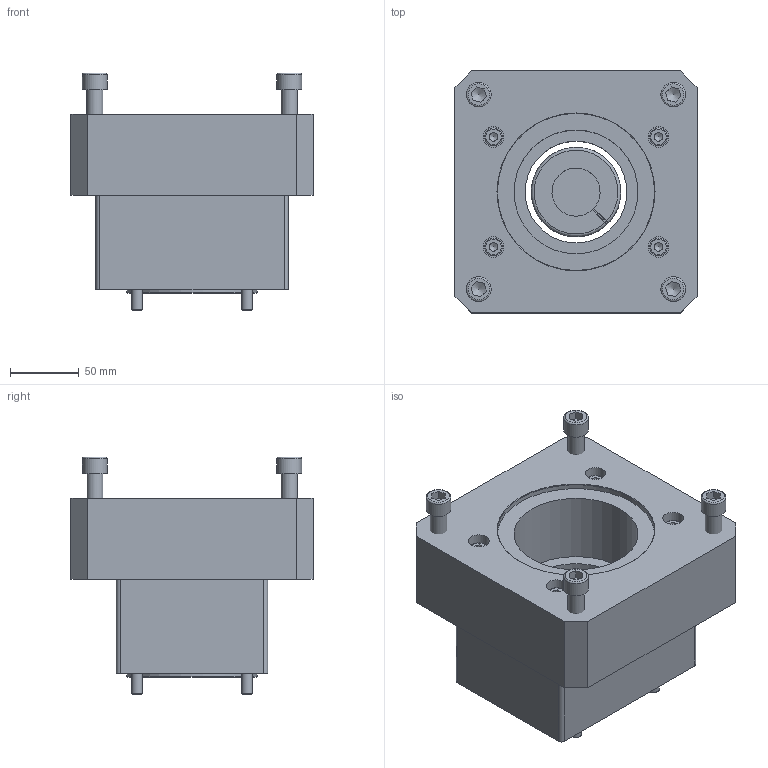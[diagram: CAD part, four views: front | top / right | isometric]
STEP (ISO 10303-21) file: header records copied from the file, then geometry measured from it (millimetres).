
FILE_DESCRIPTION(/* description */ ('EAMK-A O-Coupling housing'),/* implementation_level */ '2;1');
FILE_NAME(/* name */ 'C:\STORE\ホームページ用データ\\X2\30E230FC30BF53D64ED830AD30C330C8\X0\_2016_2016.10.06_\X2\30AB30BF30ED30B065398A025206\X0\\3D_STEP\J09820.stp',/* time_stamp */ '2016-10-19T14:54:24+09:00',/* author */ ('jp0tot'),/* organization */ ('FESTO'),/* preprocessor_version */ 'ST-DEVELOPER v15.6',/* originating_system */ 'Autodesk Inventor 2015',/* authorisation */ '');
FILE_SCHEMA (('AUTOMOTIVE_DESIGN { 1 0 10303 214 3 1 1 }'));
Length unit declared in the file: millimetre
Products named in the file (8): 3637939 EAMK-A-S95-95A_B-G2---(1O); DIN-912 - M8x75(F); 3637939 EAMK-A-S95-95A_B-G2; J08090; MJS-65C -ERD-25x35; コピー版 JIS B 1176 - M8 x 60; コピー版 JIS B 1176 - M12 x 40; J09820
Bounding box: 176 x 176 x 173 mm (x, y, z)
Volume: 2355159.9 mm3; surface area: 272982.7 mm2
Topology: 17 solids, 17 shells, 483 faces, 1120 edges, 710 vertices
Faces by surface type: plane 235, cylinder 138, cone 84, torus 26
Full cylindrical faces by diameter (mm): 5.2 x1, 6 x1, 6.647 x4, 6.8 x1, 7 x1, 8 x9, 9 x8, 10 x1, 10.106 x4, 11 x1, 12 x5, 13 x9, 14 x1, 15 x8, 18 x4, 74 x1, 90 x1, 95 x3, 114.3 x1
Entity records: 9365 total; most frequent: CARTESIAN_POINT 1947, DIRECTION 1562, ORIENTED_EDGE 1292, EDGE_CURVE 646, AXIS2_PLACEMENT_3D 639, VERTEX_POINT 466, EDGE_LOOP 446, FACE_OUTER_BOUND 309
